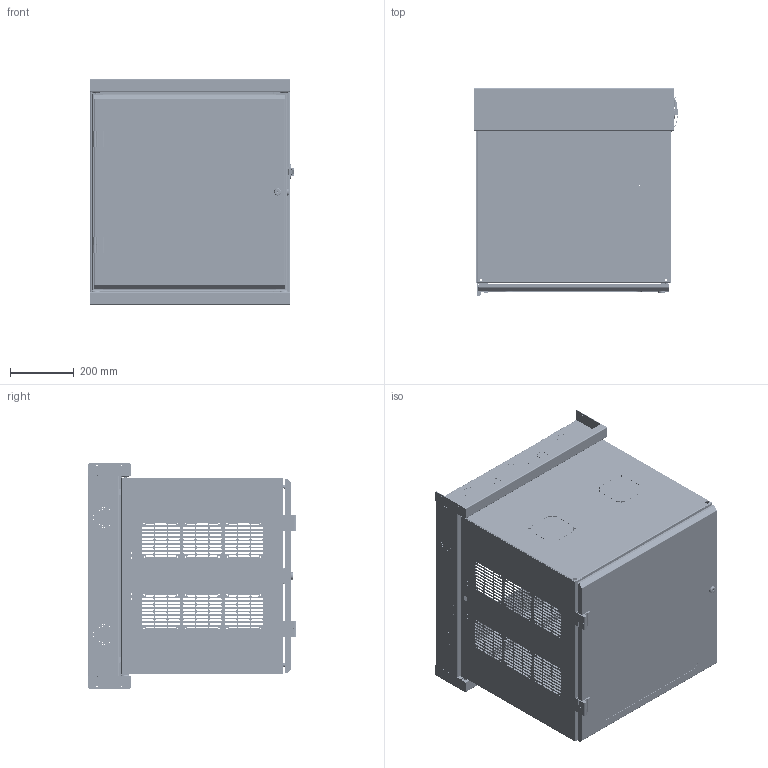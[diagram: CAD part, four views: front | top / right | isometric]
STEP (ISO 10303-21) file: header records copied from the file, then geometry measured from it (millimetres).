
FILE_DESCRIPTION(/* description */ ('Unknown'),/* implementation_level */ '2;1');
FILE_NAME(/* name */ 'HWM2412U20WH',/* time_stamp */ '2025-02-12T15:21:18-05:00',/* author */ ('Unknown'),/* organization */ ('Unknown'),/* preprocessor_version */ 'ST-DEVELOPER v18.104',/* originating_system */ 'Solid Edge',/* authorisation */ 'Unknown');
FILE_SCHEMA (('AUTOMOTIVE_DESIGN { 1 0 10303 214 3 1 1 }','AUTOMOTIVE_DESIGN {1 0 10303 214 3 1 1}'));
Products named in the file (48): HWM2412U20; COM57687-2; COM56894-2T; STD21878; COM57684-2; HNG14583; COM54375; COM57382-21; COM57384-1; COM57383-1; BSH87667; COM56897-1; FET07734; STR22105; CCH03747; CCH03748-10deg; CCH03748D; CCH03748B; CCH03748E; CCH03748A; CCH03748C; COM56905; LOC13349; LOC13349B; LOC13349A; LAB20204; COM57689-12U; FET07750; COM57689-1; COM57778-19; std26020; COM57691-1; LOC13410; LOC13410B; HNG14605; HNG14605-1; HNG14604-1A; HNG14604-1B; HNG14605-1C; HNG14604-2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
Assembly tree (72 placements, depth 5):
  HWM2412U20
    COM57687-2
      COM56894-2T  x2
        STD21878
        COM56894-2T
      COM57684-2  x2
      HNG14583
      COM54375
    COM57382-21
      COM57384-1  x2
      COM57383-1  x2
        STD21878
        COM57383-1
      BSH87667  x4
    COM56897-1  x2
    FET07734  x4
    STR22105
    CCH03747
    CCH03748-10deg
      CCH03748D
      CCH03748B
      CCH03748E
      CCH03748A
      CCH03748C
    COM56905
    LOC13349
      LOC13349B
      LOC13349A
    LAB20204
    COM57689-12U
      FET07750  x2
      COM57689-1
        COM57689-1
        COM57778-19  x2
        std26020  x2
        COM57691-1
      LOC13410
        LOC13410B
        LOC13349A
      HNG14605
        HNG14605-1
          HNG14604-1A
          HNG14604-1B
          HNG14605-1C
        HNG14604-2  x2
        HNG14605-3
      HNG14604
        HNG14604-3
        HNG14604-2  x2
        HNG14604-1
          HNG14604-1A
          HNG14604-1B
          HNG14604-1C
Bounding box: 641.2 x 654.87 x 706.42 mm (x, y, z)
Volume: 4968432.8 mm3; surface area: 6282744.6 mm2
Topology: 65 solids, 65 shells, 4960 faces, 13735 edges, 9148 vertices
Faces by surface type: plane 3008, cylinder 1838, bspline 53, cone 40, torus 17, sphere 4
Full cylindrical faces by diameter (mm): 2.54 x2, 3.048 x2, 3.175 x30, 3.454 x4, 3.962 x8, 4.039 x8, 4.297 x2, 4.496 x72, 4.775 x52, 4.978 x1, 5.334 x6, 5.461 x2, 5.537 x8, 6 x4, 6.02 x2, 6.1 x2, 6.2 x8, 6.35 x16, 7.137 x8, 7.938 x12, 8.992 x2, 9.246 x4, 9.95 x8, 10 x2, 10.312 x12, 11.125 x2, 11.684 x2, 12.7 x12, 13.005 x1, 15.011 x1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
Entity records: 90530 total; most frequent: CARTESIAN_POINT 18255, DIRECTION 14586, ORIENTED_EDGE 14430, EDGE_CURVE 7215, AXIS2_PLACEMENT_3D 4932, VERTEX_POINT 4894, LINE 4722, VECTOR 4722
